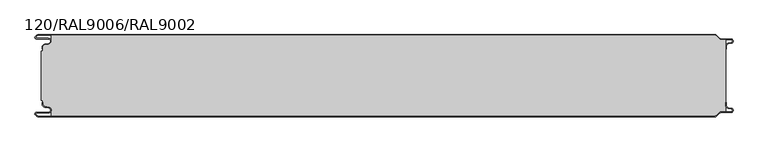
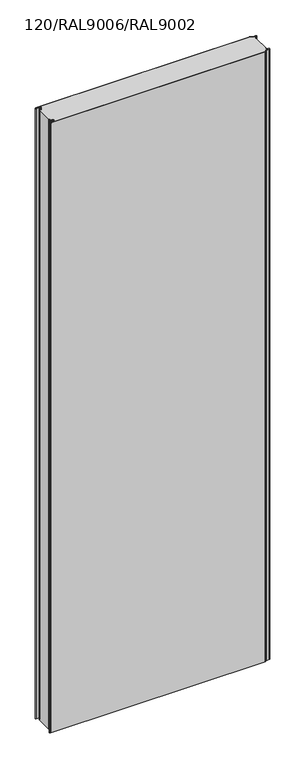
"""IFC4 building model written with IfcOpenShell, lengths in millimetres: plate geometry, TR_C_V_FTV_Panel : 120/RAL9006/RAL9002."""

from ifc_helpers import new_model, si_unit, point, frame_2d, origin, origin_with_axes, place, context, project, spatial, polyline, circle_curve, trimmed, segment, composite_curve, outline, extrude, source, transform, mapped, element, save


def plate_120_ral9006_ral9002_82c58e75(model_context):
    return source(origin(), model_context, "Body", "SweptSolid", [
        extrude(outline(composite_curve([segment(polyline([(499.8000012, -103.1130328), (499.8000012, -99.0), (500.6000012, -99.0), (500.6000012, -103.1130328)]), True, "CONTINUOUS"), segment(trimmed(circle_curve(frame_2d((504.3500012, -103.1130328)), 3.75), [point((500.6000012, -103.1130328))], [point((503.6988205, -106.8060618))], True, "CARTESIAN"), True, "CONTINUOUS"), segment(polyline([(503.6988205, -106.8060618), (507.9143577, -107.5493748)]), True, "CONTINUOUS"), segment(trimmed(circle_curve(frame_2d((507.3500012, -110.75)), 3.25), [point((507.9143577, -107.5493748))], [point((507.3500012, -114.0))], False, "CARTESIAN"), True, "CONTINUOUS"), segment(polyline([(507.3500012, -114.0), (492.6000012, -114.0)]), True, "CONTINUOUS"), segment(trimmed(circle_curve(frame_2d((492.6000012, -116.5)), 2.5), [point((492.6000012, -114.0))], [point((490.8322342, -114.732233))], True, "CARTESIAN"), True, "CONTINUOUS"), segment(polyline([(490.8322342, -114.732233), (486.4431469, -119.1213203)]), True, "CONTINUOUS"), segment(trimmed(circle_curve(frame_2d((484.3218266, -117.0)), 3.0), [point((486.4431469, -119.1213203))], [point((484.3218266, -120.0))], False, "CARTESIAN"), True, "CONTINUOUS"), segment(polyline([(484.3218266, -120.0), (-505.018628, -120.0)]), True, "CONTINUOUS"), segment(trimmed(circle_curve(frame_2d((-505.018628, -117.25)), 2.75), [point((-505.018628, -120.0))], [point((-506.9631716, -119.1945436))], False, "CARTESIAN"), True, "CONTINUOUS"), segment(polyline([(-506.9631716, -119.1945436), (-508.8288571, -117.3288582)]), True, "CONTINUOUS"), segment(trimmed(circle_curve(frame_2d((-507.4499988, -115.95)), 1.95), [point((-508.8288571, -117.3288582))], [point((-507.4499988, -114.0))], False, "CARTESIAN"), True, "CONTINUOUS"), segment(polyline([(-507.4499988, -114.0), (-489.8499988, -114.0)]), True, "CONTINUOUS"), segment(trimmed(circle_curve(frame_2d((-489.8499988, -110.55)), 3.45), [point((-489.8499988, -114.0))], [point((-489.2509126, -107.1524133))], True, "CARTESIAN"), True, "CONTINUOUS"), segment(polyline([(-489.2509126, -107.1524133), (-495.3011795, -106.085588)]), True, "CONTINUOUS"), segment(trimmed(circle_curve(frame_2d((-494.6499988, -102.3925589)), 3.75), [point((-495.3011795, -106.085588))], [point((-498.3999988, -102.3925589))], False, "CARTESIAN"), True, "CONTINUOUS"), segment(polyline([(-498.3999988, -102.3925589), (-498.3999988, -99.0), (-497.5999988, -99.0), (-497.5999988, -102.3925589)]), True, "CONTINUOUS"), segment(trimmed(circle_curve(frame_2d((-494.6499988, -102.3925589)), 2.95), [point((-497.5999988, -102.3925589))], [point((-495.162261, -105.2977418))], True, "CARTESIAN"), True, "CONTINUOUS"), segment(polyline([(-495.162261, -105.2977418), (-489.1119941, -106.364567)]), True, "CONTINUOUS"), segment(trimmed(circle_curve(frame_2d((-489.8499988, -110.55)), 4.25), [point((-489.1119941, -106.364567))], [point((-489.8499988, -114.8))], False, "CARTESIAN"), True, "CONTINUOUS"), segment(polyline([(-489.8499988, -114.8), (-507.4499988, -114.8)]), True, "CONTINUOUS"), segment(trimmed(circle_curve(frame_2d((-507.4499988, -115.95)), 1.15), [point((-507.4499988, -114.8))], [point((-508.2631716, -116.7631728))], True, "CARTESIAN"), True, "CONTINUOUS"), segment(polyline([(-508.2631716, -116.7631728), (-506.3974862, -118.6288582)]), True, "CONTINUOUS"), segment(trimmed(circle_curve(frame_2d((-505.018628, -117.25)), 1.95), [point((-506.3974862, -118.6288582))], [point((-505.018628, -119.2))], True, "CARTESIAN"), True, "CONTINUOUS"), segment(polyline([(-505.018628, -119.2), (484.3218266, -119.2)]), True, "CONTINUOUS"), segment(trimmed(circle_curve(frame_2d((484.3218266, -117.0)), 2.2), [point((484.3218266, -119.2))], [point((485.8774615, -118.5556349))], True, "CARTESIAN"), True, "CONTINUOUS"), segment(polyline([(485.8774615, -118.5556349), (490.2665488, -114.1665476)]), True, "CONTINUOUS"), segment(trimmed(circle_curve(frame_2d((492.6000012, -116.5)), 3.3), [point((490.2665488, -114.1665476))], [point((492.6000012, -113.2))], False, "CARTESIAN"), True, "CONTINUOUS"), segment(polyline([(492.6000012, -113.2), (507.3500012, -113.2)]), True, "CONTINUOUS"), segment(trimmed(circle_curve(frame_2d((507.3500012, -110.75)), 2.45), [point((507.3500012, -113.2))], [point((507.7754392, -108.337221))], True, "CARTESIAN"), True, "CONTINUOUS"), segment(polyline([(507.7754392, -108.337221), (503.559902, -107.5939081)]), True, "CONTINUOUS"), segment(trimmed(circle_curve(frame_2d((504.3500012, -103.1130328)), 4.55), [point((503.559902, -107.5939081))], [point((499.8000012, -103.1130328))], False, "CARTESIAN"), True, "CONTINUOUS")], self_intersect=False)), origin_with_axes(), (0.0, 0.0, 1.0), 2980.0),
        extrude(outline(composite_curve([segment(polyline([(-499.9999988, -23.7), (-497.5999988, -23.7), (-497.5999988, -17.6074411)]), True, "CONTINUOUS"), segment(trimmed(circle_curve(frame_2d((-494.6499988, -17.6074411)), 2.95), [point((-497.5999988, -17.6074411))], [point((-495.162261, -14.7022582))], False, "CARTESIAN"), True, "CONTINUOUS"), segment(polyline([(-495.162261, -14.7022582), (-489.1119941, -13.635433)]), True, "CONTINUOUS"), segment(trimmed(circle_curve(frame_2d((-489.8499988, -9.45)), 4.25), [point((-489.1119941, -13.635433))], [point((-485.5999988, -9.45))], True, "CARTESIAN"), True, "CONTINUOUS"), segment(polyline([(-485.5999988, -9.45), (-485.5999988, -0.8), (484.3218266, -0.8)]), True, "CONTINUOUS"), segment(trimmed(circle_curve(frame_2d((484.3218266, -3.0)), 2.2), [point((484.3218266, -0.8))], [point((485.8774615, -1.4443651))], False, "CARTESIAN"), True, "CONTINUOUS"), segment(polyline([(485.8774615, -1.4443651), (490.2665488, -5.8334524)]), True, "CONTINUOUS"), segment(trimmed(circle_curve(frame_2d((492.6000012, -3.5)), 3.3), [point((490.2665488, -5.8334524))], [point((492.6000012, -6.8))], True, "CARTESIAN"), True, "CONTINUOUS"), segment(polyline([(492.6000012, -6.8), (500.0, -6.8), (500.0, -113.2), (492.6000012, -113.2)]), True, "CONTINUOUS"), segment(trimmed(circle_curve(frame_2d((492.6000012, -116.5)), 3.3), [point((492.6000012, -113.2))], [point((490.2665488, -114.1665476))], True, "CARTESIAN"), True, "CONTINUOUS"), segment(polyline([(490.2665488, -114.1665476), (485.8774615, -118.5556349)]), True, "CONTINUOUS"), segment(trimmed(circle_curve(frame_2d((484.3218266, -117.0)), 2.2), [point((485.8774615, -118.5556349))], [point((484.3218266, -119.2))], False, "CARTESIAN"), True, "CONTINUOUS"), segment(polyline([(484.3218266, -119.2), (-485.5999988, -119.2), (-485.5999988, -110.55)]), True, "CONTINUOUS"), segment(trimmed(circle_curve(frame_2d((-489.8499988, -110.55)), 4.25), [point((-485.5999988, -110.55))], [point((-489.1119941, -106.364567))], True, "CARTESIAN"), True, "CONTINUOUS"), segment(polyline([(-489.1119941, -106.364567), (-495.162261, -105.2977418)]), True, "CONTINUOUS"), segment(trimmed(circle_curve(frame_2d((-494.6499988, -102.3925589)), 2.95), [point((-495.162261, -105.2977418))], [point((-497.5999988, -102.3925589))], False, "CARTESIAN"), True, "CONTINUOUS"), segment(polyline([(-497.5999988, -102.3925589), (-497.5999988, -96.3), (-499.9999988, -96.3), (-499.9999988, -23.7)]), True, "CONTINUOUS")], self_intersect=False)), origin_with_axes(), (0.0, 0.0, 1.0), 2980.0),
        extrude(outline(composite_curve([segment(trimmed(circle_curve(frame_2d((504.3500012, -16.8869672)), 4.55), [point((499.8000012, -16.8869672))], [point((503.559902, -12.4060919))], False, "CARTESIAN"), True, "CONTINUOUS"), segment(polyline([(503.559902, -12.4060919), (507.7754392, -11.662779)]), True, "CONTINUOUS"), segment(trimmed(circle_curve(frame_2d((507.3500012, -9.25)), 2.45), [point((507.7754392, -11.662779))], [point((507.3500012, -6.8))], True, "CARTESIAN"), True, "CONTINUOUS"), segment(polyline([(507.3500012, -6.8), (492.6000012, -6.8)]), True, "CONTINUOUS"), segment(trimmed(circle_curve(frame_2d((492.6000012, -3.5)), 3.3), [point((492.6000012, -6.8))], [point((490.2665488, -5.8334524))], False, "CARTESIAN"), True, "CONTINUOUS"), segment(polyline([(490.2665488, -5.8334524), (485.8774615, -1.4443651)]), True, "CONTINUOUS"), segment(trimmed(circle_curve(frame_2d((484.3218266, -3.0)), 2.2), [point((485.8774615, -1.4443651))], [point((484.3218266, -0.8))], True, "CARTESIAN"), True, "CONTINUOUS"), segment(polyline([(484.3218266, -0.8), (-505.018628, -0.8)]), True, "CONTINUOUS"), segment(trimmed(circle_curve(frame_2d((-505.018628, -2.75)), 1.95), [point((-505.018628, -0.8))], [point((-506.3974862, -1.3711418))], True, "CARTESIAN"), True, "CONTINUOUS"), segment(polyline([(-506.3974862, -1.3711418), (-508.2631716, -3.2368272)]), True, "CONTINUOUS"), segment(trimmed(circle_curve(frame_2d((-507.4499988, -4.05)), 1.15), [point((-508.2631716, -3.2368272))], [point((-507.4499988, -5.2))], True, "CARTESIAN"), True, "CONTINUOUS"), segment(polyline([(-507.4499988, -5.2), (-489.8499988, -5.2)]), True, "CONTINUOUS"), segment(trimmed(circle_curve(frame_2d((-489.8499988, -9.45)), 4.25), [point((-489.8499988, -5.2))], [point((-489.1119941, -13.635433))], False, "CARTESIAN"), True, "CONTINUOUS"), segment(polyline([(-489.1119941, -13.635433), (-495.162261, -14.7022582)]), True, "CONTINUOUS"), segment(trimmed(circle_curve(frame_2d((-494.6499988, -17.6074411)), 2.95), [point((-495.162261, -14.7022582))], [point((-497.5999988, -17.6074411))], True, "CARTESIAN"), True, "CONTINUOUS"), segment(polyline([(-497.5999988, -17.6074411), (-497.5999988, -21.0), (-498.3999988, -21.0), (-498.3999988, -17.6074411)]), True, "CONTINUOUS"), segment(trimmed(circle_curve(frame_2d((-494.6499988, -17.6074411)), 3.75), [point((-498.3999988, -17.6074411))], [point((-495.3011795, -13.914412))], False, "CARTESIAN"), True, "CONTINUOUS"), segment(polyline([(-495.3011795, -13.914412), (-489.2509126, -12.8475867)]), True, "CONTINUOUS"), segment(trimmed(circle_curve(frame_2d((-489.8499988, -9.45)), 3.45), [point((-489.2509126, -12.8475867))], [point((-489.8499988, -6.0))], True, "CARTESIAN"), True, "CONTINUOUS"), segment(polyline([(-489.8499988, -6.0), (-507.4499988, -6.0)]), True, "CONTINUOUS"), segment(trimmed(circle_curve(frame_2d((-507.4499988, -4.05)), 1.95), [point((-507.4499988, -6.0))], [point((-508.8288571, -2.6711418))], False, "CARTESIAN"), True, "CONTINUOUS"), segment(polyline([(-508.8288571, -2.6711418), (-506.9631716, -0.8054564)]), True, "CONTINUOUS"), segment(trimmed(circle_curve(frame_2d((-505.018628, -2.75)), 2.75), [point((-506.9631716, -0.8054564))], [point((-505.018628, 0.0))], False, "CARTESIAN"), True, "CONTINUOUS"), segment(polyline([(-505.018628, 0.0), (484.3218266, 0.0)]), True, "CONTINUOUS"), segment(trimmed(circle_curve(frame_2d((484.3218266, -3.0)), 3.0), [point((484.3218266, 0.0))], [point((486.4431469, -0.8786797))], False, "CARTESIAN"), True, "CONTINUOUS"), segment(polyline([(486.4431469, -0.8786797), (490.8322342, -5.267767)]), True, "CONTINUOUS"), segment(trimmed(circle_curve(frame_2d((492.6000012, -3.5)), 2.5), [point((490.8322342, -5.267767))], [point((492.6000012, -6.0))], True, "CARTESIAN"), True, "CONTINUOUS"), segment(polyline([(492.6000012, -6.0), (507.3500012, -6.0)]), True, "CONTINUOUS"), segment(trimmed(circle_curve(frame_2d((507.3500012, -9.25)), 3.25), [point((507.3500012, -6.0))], [point((507.9143577, -12.4506252))], False, "CARTESIAN"), True, "CONTINUOUS"), segment(polyline([(507.9143577, -12.4506252), (503.6988205, -13.1939382)]), True, "CONTINUOUS"), segment(trimmed(circle_curve(frame_2d((504.3500012, -16.8869672)), 3.75), [point((503.6988205, -13.1939382))], [point((500.6000012, -16.8869672))], True, "CARTESIAN"), True, "CONTINUOUS"), segment(polyline([(500.6000012, -16.8869672), (500.6000012, -21.0), (499.8000012, -21.0), (499.8000012, -16.8869672)]), True, "CONTINUOUS")], self_intersect=False)), origin_with_axes(), (0.0, 0.0, 1.0), 2980.0),
    ])


if __name__ == "__main__":
    model = new_model("IFC4")
    model_context = context("Model", 3, world=origin())
    ifc_project = project(units=[si_unit("LENGTHUNIT", "METRE", prefix="MILLI")], contexts=[model_context])
    site = spatial("IfcSite", under=ifc_project)
    building = spatial("IfcBuilding", under=site)
    placement = place(None, origin())
    plate_120_ral9006_ral9002_shape = plate_120_ral9006_ral9002_82c58e75(model_context)
    element("IfcPlate", 1, ObjectType="TR_C_V_FTV_Panel : 120/RAL9006/RAL9002", at=placement, inside=building, context=model_context, shape_type="MappedRepresentation", body=[
        mapped(plate_120_ral9006_ral9002_shape, transform((0.0, 0.0, 0.0), x_axis=(1.0, 0.0, 0.0), y_axis=(0.0, 1.0, 0.0), z_axis=(0.0, 0.0, 1.0))),
    ])
    save(model, "model.ifc")
